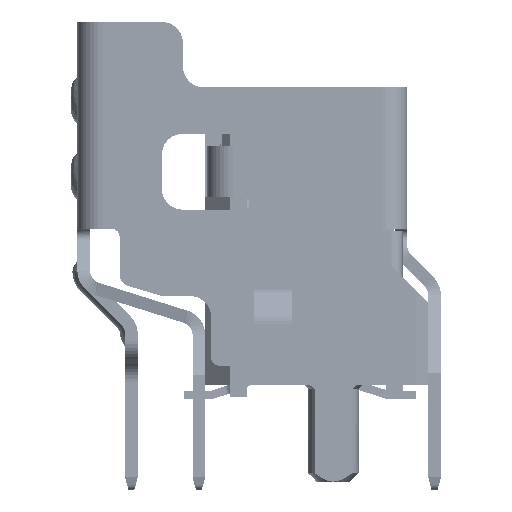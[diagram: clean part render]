
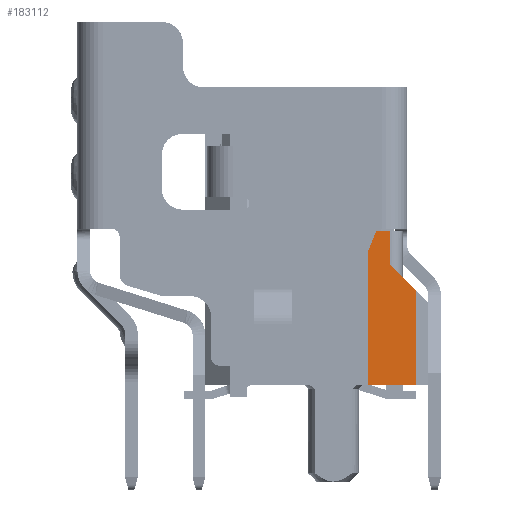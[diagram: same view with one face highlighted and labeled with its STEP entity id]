
A CAD part, left-side view. The second image highlights one B-rep face of the part: STEP entity #183112.
In plain terms, the highlighted planar face has unit normal (-1, 0, 0).
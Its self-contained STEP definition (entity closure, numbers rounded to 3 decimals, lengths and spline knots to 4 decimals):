
#52474=DIRECTION('',(0.,0.,1.));
#52475=VECTOR('',#52474,2.25);
#52476=CARTESIAN_POINT('',(-12.79,-93.5684,-7.05));
#52477=LINE('',#52476,#52475);
#52486=DIRECTION('',(0.,1.,0.));
#52487=VECTOR('',#52486,1.13);
#52488=CARTESIAN_POINT('',(-12.79,-93.5684,-7.05));
#52489=LINE('',#52488,#52487);
#52490=DIRECTION('',(0.,-0.371,0.928));
#52491=VECTOR('',#52490,0.5385);
#52492=CARTESIAN_POINT('',(-12.79,-92.4384,-3.9));
#52493=LINE('',#52492,#52491);
#52494=DIRECTION('',(0.,-1.,0.));
#52495=VECTOR('',#52494,0.32);
#52496=CARTESIAN_POINT('',(-12.79,-92.6384,-3.4));
#52497=LINE('',#52496,#52495);
#52498=DIRECTION('',(0.,-0.707,-0.707));
#52499=VECTOR('',#52498,0.8627);
#52500=CARTESIAN_POINT('',(-12.79,-92.9584,-4.19));
#52501=LINE('',#52500,#52499);
#52502=DIRECTION('',(0.,0.,-1.));
#52503=VECTOR('',#52502,3.15);
#52504=CARTESIAN_POINT('',(-12.79,-92.4384,-3.9));
#52505=LINE('',#52504,#52503);
#52882=DIRECTION('',(0.,0.,1.));
#52883=VECTOR('',#52882,0.79);
#52884=CARTESIAN_POINT('',(-12.79,-92.9584,-4.19));
#52885=LINE('',#52884,#52883);
#100698=CARTESIAN_POINT('',(-12.79,-93.5684,
-4.8));
#100699=VERTEX_POINT('',#100698);
#100700=CARTESIAN_POINT('',(-12.79,-92.9584,-4.19));
#100701=VERTEX_POINT('',#100700);
#101450=CARTESIAN_POINT('',(-12.79,-92.6384,-3.4));
#101451=CARTESIAN_POINT('',(-12.79,-92.9584,-3.4));
#101452=VERTEX_POINT('',#101450);
#101453=VERTEX_POINT('',#101451);
#101460=CARTESIAN_POINT('',(-12.79,-93.5684,-7.05));
#101461=CARTESIAN_POINT('',(-12.79,-92.4384,-7.05));
#101462=VERTEX_POINT('',#101460);
#101463=VERTEX_POINT('',#101461);
#101464=CARTESIAN_POINT('',(-12.79,-92.4384,-3.9));
#101465=VERTEX_POINT('',#101464);
#183094=CARTESIAN_POINT('',(-12.79,-93.0034,-5.225));
#183095=DIRECTION('',(1.,0.,0.));
#183096=DIRECTION('',(0.,0.,-1.));
#183097=AXIS2_PLACEMENT_3D('',#183094,#183095,#183096);
#183098=PLANE('',#183097);
#183099=ORIENTED_EDGE('',*,*,#183045,.T.);
#183101=ORIENTED_EDGE('',*,*,#183100,.F.);
#183103=ORIENTED_EDGE('',*,*,#183102,.T.);
#183105=ORIENTED_EDGE('',*,*,#183104,.T.);
#183107=ORIENTED_EDGE('',*,*,#183106,.F.);
#183108=ORIENTED_EDGE('',*,*,#117350,.T.);
#183109=ORIENTED_EDGE('',*,*,#183086,.F.);
#183110=EDGE_LOOP('',(#183099,#183101,#183103,#183105,#183107,#183108,#183109));
#183111=FACE_OUTER_BOUND('',#183110,.F.);
#183112=ADVANCED_FACE('',(#183111),#183098,.F.);
#117350=EDGE_CURVE('',#100701,#100699,#52501,.T.);
#183045=EDGE_CURVE('',#101462,#101463,#52489,.T.);
#183086=EDGE_CURVE('',#101462,#100699,#52477,.T.);
#183100=EDGE_CURVE('',#101465,#101463,#52505,.T.);
#183102=EDGE_CURVE('',#101465,#101452,#52493,.T.);
#183104=EDGE_CURVE('',#101452,#101453,#52497,.T.);
#183106=EDGE_CURVE('',#100701,#101453,#52885,.T.);
